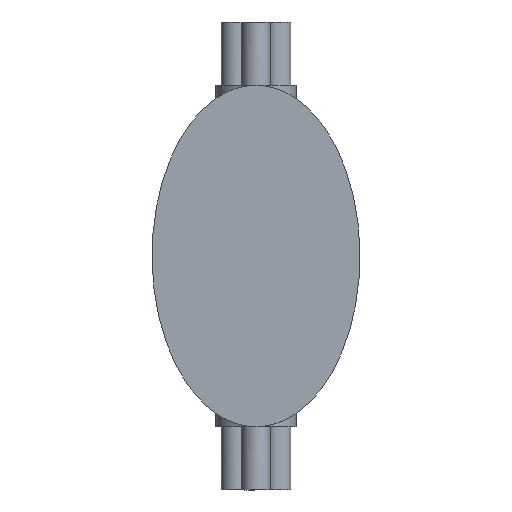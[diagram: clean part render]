
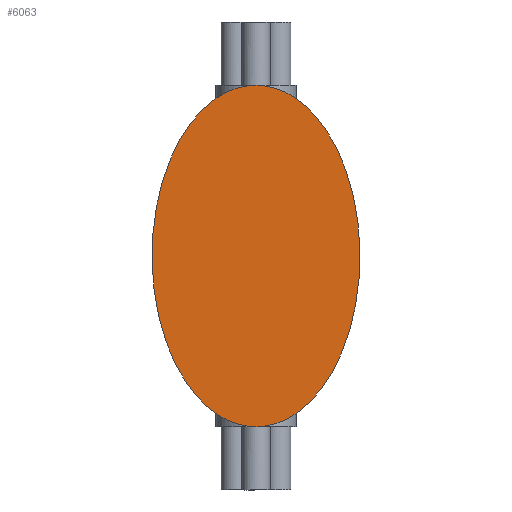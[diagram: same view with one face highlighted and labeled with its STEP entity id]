
A CAD part, front view. The second image highlights one B-rep face of the part: STEP entity #6063.
In plain terms, the highlighted planar face has unit normal (0, -1, 0) as drawn and (0, 1, 0) by its records, which use the part's own axes.
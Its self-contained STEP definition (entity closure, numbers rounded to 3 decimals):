
#557 = VERTEX_POINT ( 'NONE', #4470 ) ;
#1202 = VERTEX_POINT ( 'NONE', #3957 ) ;
#1253 = CARTESIAN_POINT ( 'NONE',  ( 63720.518, 255., 883.473 ) ) ;
#1641 = CARTESIAN_POINT ( 'NONE',  ( 63391.656, 255., 883.473 ) ) ;
#2074 =( BOUNDED_CURVE ( )  B_SPLINE_CURVE ( 3, ( #3003, #5604, #1641, #4625 ),
 .UNSPECIFIED., .F., .F. ) 
 B_SPLINE_CURVE_WITH_KNOTS ( ( 4, 4 ),
 ( 0., 3.142 ),
 .UNSPECIFIED. ) 
 CURVE ( )  GEOMETRIC_REPRESENTATION_ITEM ( )  RATIONAL_B_SPLINE_CURVE ( ( 1., 0.333, 0.333, 1. ) ) 
 REPRESENTATION_ITEM ( '' )  );
#2091 = FACE_OUTER_BOUND ( 'NONE', #5094, .T. ) ;
#2248 = EDGE_CURVE ( 'NONE', #557, #1202, #2074, .T. ) ;
#2741 = CARTESIAN_POINT ( 'NONE',  ( 63556.087, 255., 613.473 ) ) ;
#2861 = AXIS2_PLACEMENT_3D ( 'NONE', #5536, #3561, #4187 ) ;
#3003 = CARTESIAN_POINT ( 'NONE',  ( 63556.087, 255., 613.473 ) ) ;
#3026 =( BOUNDED_CURVE ( )  B_SPLINE_CURVE ( 3, ( #3723, #1253, #3230, #2741 ),
 .UNSPECIFIED., .F., .F. ) 
 B_SPLINE_CURVE_WITH_KNOTS ( ( 4, 4 ),
 ( 3.142, 6.283 ),
 .UNSPECIFIED. ) 
 CURVE ( )  GEOMETRIC_REPRESENTATION_ITEM ( )  RATIONAL_B_SPLINE_CURVE ( ( 1., 0.333, 0.333, 1. ) ) 
 REPRESENTATION_ITEM ( '' )  );
#3230 = CARTESIAN_POINT ( 'NONE',  ( 63720.518, 255., 613.473 ) ) ;
#3561 = DIRECTION ( 'NONE',  ( 0., 1., 0. ) ) ;
#3687 = ORIENTED_EDGE ( 'NONE', *, *, #2248, .T. ) ;
#3723 = CARTESIAN_POINT ( 'NONE',  ( 63556.087, 255., 883.473 ) ) ;
#3957 = CARTESIAN_POINT ( 'NONE',  ( 63556.087, 255., 883.473 ) ) ;
#4187 = DIRECTION ( 'NONE',  ( 0., 0., 1. ) ) ;
#4470 = CARTESIAN_POINT ( 'NONE',  ( 63556.087, 255., 613.473 ) ) ;
#4625 = CARTESIAN_POINT ( 'NONE',  ( 63556.087, 255., 883.473 ) ) ;
#5008 = ORIENTED_EDGE ( 'NONE', *, *, #6311, .T. ) ;
#5077 = PLANE ( 'NONE',  #2861 ) ;
#5094 = EDGE_LOOP ( 'NONE', ( #3687, #5008 ) ) ;
#5536 = CARTESIAN_POINT ( 'NONE',  ( 63556.087, 255., 748.473 ) ) ;
#5604 = CARTESIAN_POINT ( 'NONE',  ( 63391.656, 255., 613.473 ) ) ;
#6063 = ADVANCED_FACE ( 'NONE', ( #2091 ), #5077, .T. ) ;
#6311 = EDGE_CURVE ( 'NONE', #1202, #557, #3026, .T. ) ;
